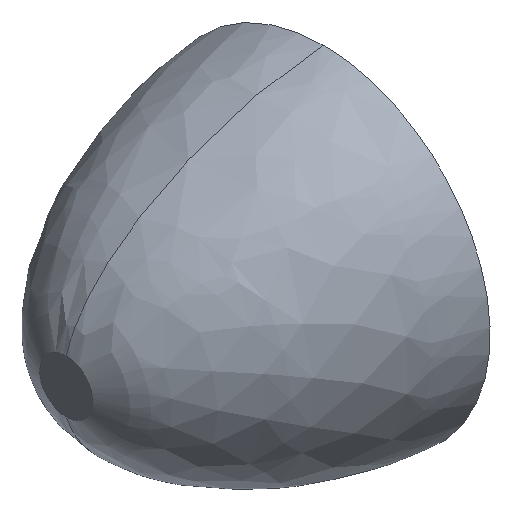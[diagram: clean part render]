
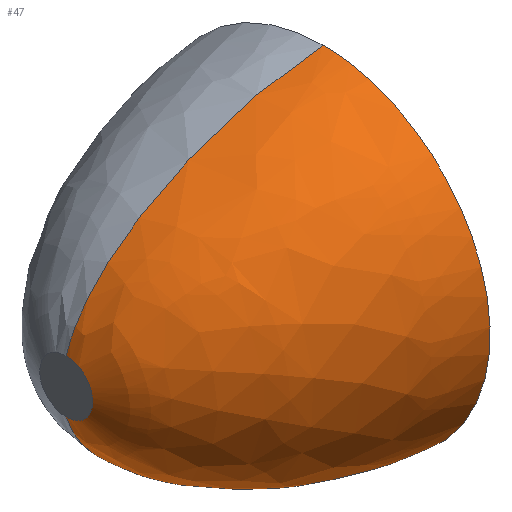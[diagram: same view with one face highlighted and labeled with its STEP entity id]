
A CAD part, isometric view. The second image highlights one B-rep face of the part: STEP entity #47.
In plain terms, the highlighted free-form (B-spline) face has degree [3, 3] with [4, 4] control points.
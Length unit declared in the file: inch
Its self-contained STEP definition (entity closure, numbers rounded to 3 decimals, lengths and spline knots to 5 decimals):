
#43=(
BOUNDED_SURFACE()
B_SPLINE_SURFACE(3,3,((#142,#143,#144,#145),(#146,#147,#148,#149),(#150,
#151,#152,#153),(#154,#155,#156,#157)),.UNSPECIFIED.,.F.,.F.,.F.)
B_SPLINE_SURFACE_WITH_KNOTS((4,4),(4,4),(0.,1.),(0.,1.),.UNSPECIFIED.)
GEOMETRIC_REPRESENTATION_ITEM()
RATIONAL_B_SPLINE_SURFACE(((1.,0.333,0.333,1.),
(1.,0.333,0.333,1.),(1.,0.333,0.333,
1.),(1.,0.333,0.333,1.)))
REPRESENTATION_ITEM('')
SURFACE()
);
#47=ADVANCED_FACE('',(#53),#43,.T.);
#53=FACE_OUTER_BOUND('',#57,.T.);
#57=EDGE_LOOP('',(#66,#67,#68,#69));
#66=ORIENTED_EDGE('',*,*,#79,.T.);
#67=ORIENTED_EDGE('',*,*,#76,.T.);
#68=ORIENTED_EDGE('',*,*,#78,.T.);
#69=ORIENTED_EDGE('',*,*,#75,.T.);
#70=VERTEX_POINT('',#94);
#71=VERTEX_POINT('',#95);
#72=VERTEX_POINT('',#108);
#73=VERTEX_POINT('',#109);
#75=EDGE_CURVE('',#71,#70,#81,.T.);
#76=EDGE_CURVE('',#72,#73,#82,.T.);
#78=EDGE_CURVE('',#73,#71,#84,.T.);
#79=EDGE_CURVE('',#70,#72,#85,.T.);
#81=(
BOUNDED_CURVE()
B_SPLINE_CURVE(3,(#96,#97,#98,#99),.UNSPECIFIED.,.F.,.F.)
B_SPLINE_CURVE_WITH_KNOTS((4,4),(0.,1.),.UNSPECIFIED.)
CURVE()
GEOMETRIC_REPRESENTATION_ITEM()
RATIONAL_B_SPLINE_CURVE((1.,0.333,0.333,1.))
REPRESENTATION_ITEM('')
);
#82=(
BOUNDED_CURVE()
B_SPLINE_CURVE(3,(#104,#105,#106,#107),.UNSPECIFIED.,.F.,.F.)
B_SPLINE_CURVE_WITH_KNOTS((4,4),(0.,1.),.UNSPECIFIED.)
CURVE()
GEOMETRIC_REPRESENTATION_ITEM()
RATIONAL_B_SPLINE_CURVE((1.,0.333,0.333,1.))
REPRESENTATION_ITEM('')
);
#84=(
BOUNDED_CURVE()
B_SPLINE_CURVE(3,(#118,#119,#120,#121),.UNSPECIFIED.,.F.,.F.)
B_SPLINE_CURVE_WITH_KNOTS((4,4),(0.,1.),.UNSPECIFIED.)
CURVE()
GEOMETRIC_REPRESENTATION_ITEM()
RATIONAL_B_SPLINE_CURVE((1.,1.,1.,1.))
REPRESENTATION_ITEM('')
);
#85=(
BOUNDED_CURVE()
B_SPLINE_CURVE(3,(#122,#123,#124,#125),.UNSPECIFIED.,.F.,.F.)
B_SPLINE_CURVE_WITH_KNOTS((4,4),(0.,1.),.UNSPECIFIED.)
CURVE()
GEOMETRIC_REPRESENTATION_ITEM()
RATIONAL_B_SPLINE_CURVE((1.,1.,1.,1.))
REPRESENTATION_ITEM('')
);
#94=CARTESIAN_POINT('',(270.98368,0.,-1.74111));
#95=CARTESIAN_POINT('',(270.98368,0.,0.68162));
#96=CARTESIAN_POINT('',(270.98368,0.,0.68162));
#97=CARTESIAN_POINT('',(270.98368,-2.42273,0.68162));
#98=CARTESIAN_POINT('',(270.98368,-2.42273,-1.74111));
#99=CARTESIAN_POINT('',(270.98368,0.,-1.74111));
#104=CARTESIAN_POINT('',(282.74968,0.,-8.18174));
#105=CARTESIAN_POINT('',(282.74968,-15.304,-8.18174));
#106=CARTESIAN_POINT('',(282.74968,-15.304,7.12226));
#107=CARTESIAN_POINT('',(282.74968,0.,7.12226));
#108=CARTESIAN_POINT('',(282.74968,0.,-8.18174));
#109=CARTESIAN_POINT('',(282.74968,0.,7.12226));
#118=CARTESIAN_POINT('',(282.74968,0.,7.12226));
#119=CARTESIAN_POINT('',(278.10928,0.,6.84637));
#120=CARTESIAN_POINT('',(272.10353,0.,4.3297));
#121=CARTESIAN_POINT('',(270.98368,0.,0.68162));
#122=CARTESIAN_POINT('',(270.98368,0.,-1.74111));
#123=CARTESIAN_POINT('',(272.10353,0.,-5.38918));
#124=CARTESIAN_POINT('',(278.10928,0.,-7.90585));
#125=CARTESIAN_POINT('',(282.74968,0.,-8.18174));
#142=CARTESIAN_POINT('',(270.98368,0.,-1.74111));
#143=CARTESIAN_POINT('',(270.98368,-2.42273,-1.74111));
#144=CARTESIAN_POINT('',(270.98368,-2.42273,0.68162));
#145=CARTESIAN_POINT('',(270.98368,0.,0.68162));
#146=CARTESIAN_POINT('',(272.10353,0.,-5.38918));
#147=CARTESIAN_POINT('',(272.10353,-9.71888,-5.38918));
#148=CARTESIAN_POINT('',(272.10353,-9.71888,4.3297));
#149=CARTESIAN_POINT('',(272.10353,0.,4.3297));
#150=CARTESIAN_POINT('',(278.10928,0.,-7.90585));
#151=CARTESIAN_POINT('',(278.10928,-14.75222,-7.90585));
#152=CARTESIAN_POINT('',(278.10928,-14.75222,6.84637));
#153=CARTESIAN_POINT('',(278.10928,0.,6.84637));
#154=CARTESIAN_POINT('',(282.74968,0.,-8.18174));
#155=CARTESIAN_POINT('',(282.74968,-15.304,-8.18174));
#156=CARTESIAN_POINT('',(282.74968,-15.304,7.12226));
#157=CARTESIAN_POINT('',(282.74968,0.,7.12226));
